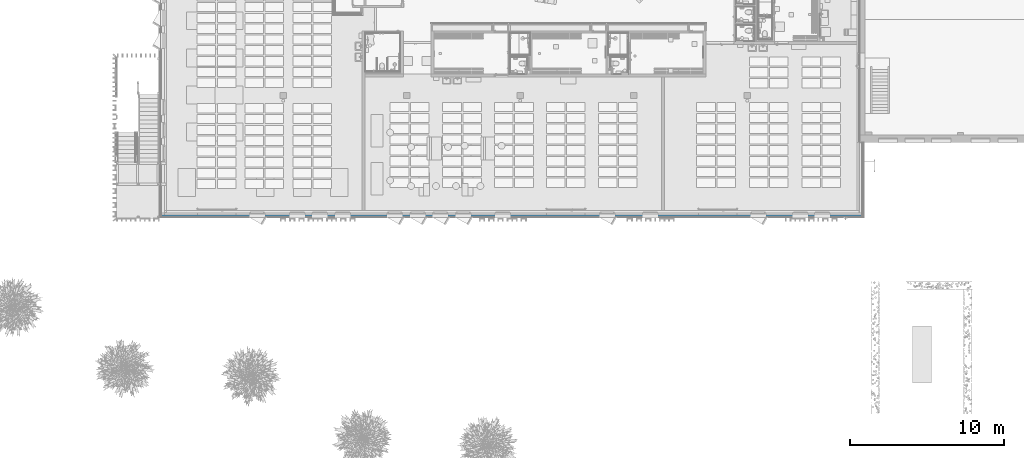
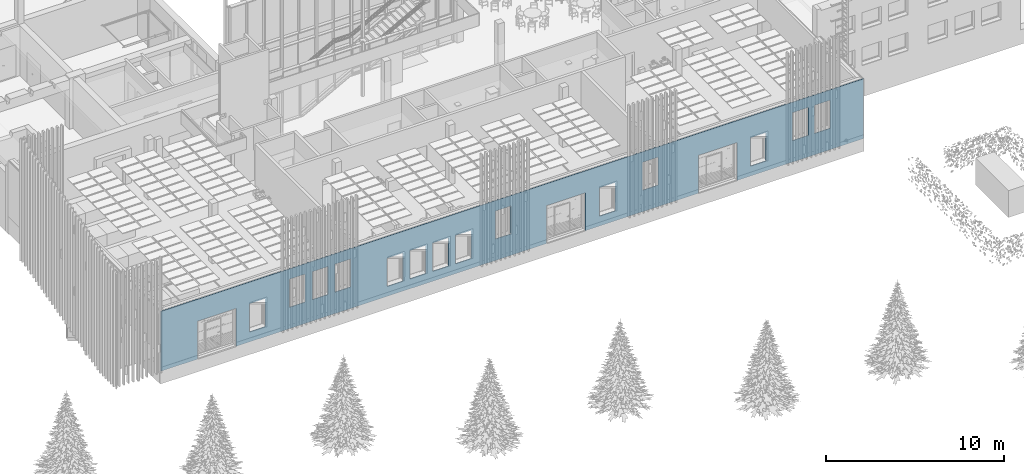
# One storey, part 176 of 301: 1 building element part, 20 openings, 1 element without a shape of its own.
"""IFC2X3 building model written with IfcOpenShell, lengths in millimetres."""

import ifcopenshell
import ifcopenshell.guid

model = None  # the IFC model being written
_history = None  # IfcOwnerHistory: only IFC2X3 demands one
_inside = {}  # id of a spatial element -> (the spatial element, [elements in it])
_under = {}  # id of a project, library or spatial element -> (it, [spatial elements below it])
_declared = {}  # id of a project -> (the project, [libraries it declares])
_typed = {}  # id of a type object -> (the type object, [elements of that type])
_made_of = {}  # id of a material, layer set ... -> (it, [elements and type objects made of it])


def new_model(schema):
    """Start an empty IFC model of exactly this schema.

    Asked for "IFC4X3", IfcOpenShell would pick the latest addendum, in which some entities
    have other attributes; the version numbers below select the first issue.
    IFC2X3 requires an IfcOwnerHistory on every rooted entity: one is made here for all.
    """
    global model, _history
    if schema == "IFC4X3":
        model = ifcopenshell.file(schema_version=(4, 3, 0, 0))
    else:
        model = ifcopenshell.file(schema=schema)
    _inside.clear()
    _under.clear()
    _declared.clear()
    _typed.clear()
    _made_of.clear()
    _history = None
    if model.schema == "IFC2X3":
        org = make("IfcOrganization", Name="unknown")
        user = make(
            "IfcPersonAndOrganization",
            ThePerson=make("IfcPerson", FamilyName="unknown"),
            TheOrganization=org,
        )
        app = make(
            "IfcApplication",
            ApplicationDeveloper=org,
            Version="unknown",
            ApplicationFullName="unknown",
            ApplicationIdentifier="unknown",
        )
        _history = make(
            "IfcOwnerHistory",
            OwningUser=user,
            OwningApplication=app,
            ChangeAction="ADDED",
            CreationDate=0,
        )
    return model


def make(cls, **values):
    """One entity of the class cls with the attributes given. An attribute that is None is left unset."""
    return model.create_entity(
        cls, **{name: value for name, value in values.items() if value is not None}
    )


def entity(cls, *values):
    """Any entity or typed value of the class cls, its attributes in the order of the schema. None: left unset."""
    e = model.create_entity(cls)
    for i, value in enumerate(values):
        if value is not None:
            e[i] = value
    return e


def rooted(cls, **values):
    """An entity with a GlobalId (a new one), such as an element, a storey or a relation."""
    return make(cls, GlobalId=ifcopenshell.guid.new(), OwnerHistory=_history, **values)


def si_unit(unit_type, name, prefix=None):
    """IfcSIUnit, for example si_unit("LENGTHUNIT", "METRE", prefix="MILLI")."""
    return make("IfcSIUnit", UnitType=unit_type, Prefix=prefix, Name=name)


def converted_unit(unit_type, name, factor, base, dimensions=None, offset=None):
    """IfcConversionBasedUnit, such as the inch: factor (a typed value) times the base unit."""
    return make(
        "IfcConversionBasedUnit"
        if offset is None
        else "IfcConversionBasedUnitWithOffset",
        ConversionOffset=offset,
        Dimensions=None
        if dimensions is None
        else entity("IfcDimensionalExponents", *dimensions),
        UnitType=unit_type,
        Name=name,
        ConversionFactor=make(
            "IfcMeasureWithUnit", ValueComponent=factor, UnitComponent=base
        ),
    )


def derived_unit(unit_type, elements):
    """IfcDerivedUnit: a product of units, each with its exponent."""
    return make(
        "IfcDerivedUnit",
        Elements=[
            make("IfcDerivedUnitElement", Unit=unit, Exponent=power)
            for unit, power in elements
        ],
        UnitType=unit_type,
    )


def money_unit(currency):
    """IfcMonetaryUnit."""
    return make("IfcMonetaryUnit", Currency=currency)


def assignment(units):
    """IfcUnitAssignment: the units of a project."""
    return None if units is None else make("IfcUnitAssignment", Units=units)


def point(xyz):
    """IfcCartesianPoint."""
    return None if xyz is None else make("IfcCartesianPoint", Coordinates=xyz)


def direction(xyz):
    """IfcDirection."""
    return None if xyz is None else make("IfcDirection", DirectionRatios=xyz)


def frame(location, z_axis=None, x_axis=None):
    """IfcAxis2Placement3D, a coordinate frame: its origin and axes. An axis left out is left unset."""
    return make(
        "IfcAxis2Placement3D",
        Location=point(location),
        Axis=direction(z_axis),
        RefDirection=direction(x_axis),
    )


def origin_with_axes():
    """The frame at (0, 0, 0) with the z axis (0, 0, 1) and the x axis (1, 0, 0) written out."""
    return frame((0.0, 0.0, 0.0), z_axis=(0.0, 0.0, 1.0), x_axis=(1.0, 0.0, 0.0))


def place(relative_to, where):
    """IfcLocalPlacement: puts the frame where relative to a parent placement (None: the world)."""
    return make(
        "IfcLocalPlacement", PlacementRelTo=relative_to, RelativePlacement=where
    )


def context(
    kind, dimensions, precision=None, world=None, true_north=None, identifier=None
):
    """IfcGeometricRepresentationContext, for example the 3D "Model" context."""
    return make(
        "IfcGeometricRepresentationContext",
        ContextIdentifier=identifier,
        ContextType=kind,
        CoordinateSpaceDimension=dimensions,
        Precision=precision,
        WorldCoordinateSystem=world,
        TrueNorth=true_north,
    )


def subcontext(parent, identifier, kind, view, scale=None):
    """IfcGeometricRepresentationSubContext, for example "Body" below "Model"."""
    return make(
        "IfcGeometricRepresentationSubContext",
        ContextIdentifier=identifier,
        ContextType=kind,
        ParentContext=parent,
        TargetScale=scale,
        TargetView=view,
    )


def project(units=None, contexts=None):
    """IfcProject with its units and contexts."""
    return rooted(
        "IfcProject",
        Name="project",
        RepresentationContexts=contexts,
        UnitsInContext=assignment(units),
    )


def spatial(cls, under=None, at=None, **own):
    """A site, building, storey or space (cls), placed at a placement, below another one or the project."""
    s = rooted(cls, ObjectPlacement=at, **own)
    if under is not None:
        _under.setdefault(under.id(), (under, []))[1].append(s)
    return s


def faces_of(points, faces, orient=None, outer=None):
    """IfcFace entities. A face is a list of loops; a loop is a list of indices into points, from 0.

    orient and outer hold one flag for each loop. By default every Orientation is true, the
    first loop of a face is its IfcFaceOuterBound and the others are IfcFaceBound.
    """
    made = []
    for i, loops in enumerate(faces):
        bounds = []
        for j, loop in enumerate(loops):
            is_outer = j == 0 if outer is None else outer[i][j]
            bounds.append(
                make(
                    "IfcFaceOuterBound" if is_outer else "IfcFaceBound",
                    Bound=make("IfcPolyLoop", Polygon=[points[k] for k in loop]),
                    Orientation=True if orient is None else orient[i][j],
                )
            )
        made.append(make("IfcFace", Bounds=bounds))
    return made


def faceted_brep(points, faces, orient=None, outer=None, voids=None):
    """IfcFacetedBrep: a solid bounded by flat faces; with voids (closed shells), ...WithVoids."""
    shared = [point(p) for p in points]
    hull = make("IfcClosedShell", CfsFaces=faces_of(shared, faces, orient, outer))
    if voids is None:
        return make("IfcFacetedBrep", Outer=hull)
    return make(
        "IfcFacetedBrepWithVoids",
        Outer=hull,
        Voids=[
            make(cls, CfsFaces=faces_of(shared, fs, o, b)) for cls, fs, o, b in voids
        ],
    )


def shape(context_of_items, identifier, shape_type, items):
    """IfcShapeRepresentation: the items that make up one representation, for example the "Body"."""
    return make(
        "IfcShapeRepresentation",
        ContextOfItems=context_of_items,
        RepresentationIdentifier=identifier,
        RepresentationType=shape_type,
        Items=items,
    )


def material(Name=None, Category=None):
    """IfcMaterial."""
    return make("IfcMaterial", Name=Name, Category=Category)


def made_of(thing, what):
    """Note that an element or type object is made of a material, layer set ...; save() writes the relation."""
    if what is not None:
        _made_of.setdefault(what.id(), (what, []))[1].append(thing)
    return thing


def type_object(cls, material=None, **own):
    """A type object (cls), such as IfcWallType, which elements share."""
    return made_of(rooted(cls, **own), material)


def element(
    cls,
    number,
    at=None,
    inside=None,
    cuts=None,
    type_object=None,
    material=None,
    context=None,
    identifier="Body",
    shape_type=None,
    held_by="IfcProductDefinitionShape",
    body=None,
    shapes=None,
    **own,
):
    """One element of the class cls, such as IfcWall. Its Tag is "e" and its number.

    at: its placement. inside: the storey or other place that contains it. cuts: it is an
    opening in that element (IfcRelVoidsElement). A single representation is given by context,
    identifier, shape_type and body (its items); several are given by shapes. held_by: the class
    of the entity that holds the representations. save() writes the other relations.
    """
    e = rooted(cls, Tag="e%d" % number, ObjectPlacement=at, **own)
    if body is not None:
        shapes = [shape(context, identifier, shape_type, body)]
    if shapes is not None:
        e.Representation = make(held_by, Representations=shapes)
    if inside is not None:
        _inside.setdefault(inside.id(), (inside, []))[1].append(e)
    if cuts is not None:
        rooted(
            "IfcRelVoidsElement", RelatingBuildingElement=cuts, RelatedOpeningElement=e
        )
    if type_object is not None:
        _typed.setdefault(type_object.id(), (type_object, []))[1].append(e)
    return made_of(e, material)


def aggregate(whole, parts):
    """IfcRelAggregates: a whole, such as a stair, and the parts it consists of."""
    return rooted("IfcRelAggregates", RelatingObject=whole, RelatedObjects=parts)


def save(model, path):
    """Write the relations noted so far, then the file.

    IfcRelAggregates (storeys below a building ...), IfcRelContainedInSpatialStructure (elements
    in a storey), IfcRelDefinesByType, IfcRelAssociatesMaterial and IfcRelDeclares: one each for
    every whole, place, type object, material and project.
    """
    for whole, parts in _under.values():
        aggregate(whole, parts)
    for where, things in _inside.values():
        rooted(
            "IfcRelContainedInSpatialStructure",
            RelatedElements=things,
            RelatingStructure=where,
        )
    for kind, things in _typed.values():
        rooted("IfcRelDefinesByType", RelatedObjects=things, RelatingType=kind)
    for what, things in _made_of.values():
        rooted("IfcRelAssociatesMaterial", RelatedObjects=things, RelatingMaterial=what)
    for by, libraries in _declared.values():
        rooted("IfcRelDeclares", RelatingContext=by, RelatedDefinitions=libraries)
    model.write(path)


model = new_model("IFC2X3")

# Units and contexts
model_context = context("Model", 3, precision=0.01, world=origin_with_axes(), true_north=direction((0.0, 1.0)))
body_context = subcontext(model_context, "Body", "Model", "MODEL_VIEW")
ifc_project = project(units=[si_unit("LENGTHUNIT", "METRE", prefix="MILLI"), si_unit("AREAUNIT", "SQUARE_METRE"), si_unit("VOLUMEUNIT", "CUBIC_METRE"), converted_unit("PLANEANGLEUNIT", "DEGREE", entity("IfcPlaneAngleMeasure", 0.0174532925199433), si_unit("PLANEANGLEUNIT", "RADIAN"), dimensions=[0, 0, 0, 0, 0, 0, 0]), money_unit("EUR"), converted_unit("TIMEUNIT", "Year", entity("IfcTimeMeasure", 31557600.0), si_unit("TIMEUNIT", "SECOND"), dimensions=[0, 0, 1, 0, 0, 0, 0]), si_unit("MASSUNIT", "GRAM", prefix="KILO"), si_unit("THERMODYNAMICTEMPERATUREUNIT", "DEGREE_CELSIUS"), si_unit("LUMINOUSINTENSITYUNIT", "LUMEN"), si_unit("ENERGYUNIT", "JOULE", prefix="MEGA"), derived_unit("THERMALCONDUCTANCEUNIT", [(si_unit("POWERUNIT", "WATT"), 1), (si_unit("LENGTHUNIT", "METRE"), -1), (si_unit("THERMODYNAMICTEMPERATUREUNIT", "KELVIN"), -1)]), derived_unit("SPECIFICHEATCAPACITYUNIT", [(si_unit("ENERGYUNIT", "JOULE"), 1), (si_unit("MASSUNIT", "GRAM", prefix="KILO"), -1), (si_unit("THERMODYNAMICTEMPERATUREUNIT", "KELVIN"), -1)]), derived_unit("MASSDENSITYUNIT", [(si_unit("MASSUNIT", "GRAM", prefix="KILO"), 1), (si_unit("VOLUMEUNIT", "CUBIC_METRE"), -1)])], contexts=[model_context])

# Site, building, storey
site_placement = place(None, frame((0.0, 0.0, 8650.0), z_axis=(0.0, 0.0, 1.0), x_axis=(1.0, 0.0, 0.0)))
site = spatial("IfcSite", under=ifc_project, at=site_placement, Name="43301:001:0844", CompositionType="ELEMENT")
building_placement = place(site_placement, origin_with_axes())
building = spatial("IfcBuilding", under=site, at=building_placement, Name="Kuressaare Ametikooli tuulikute mehaanikute õppekorpus", CompositionType="ELEMENT")
storey_placement = place(building_placement, origin_with_axes())
storey = spatial("IfcBuildingStorey", under=building, at=storey_placement, Name="1.korrus", CompositionType="ELEMENT", Elevation=0.0)

# Wall, openings, building element part
wall_type = type_object("IfcWallType", Name="VS1 437", PredefinedType="NOTDEFINED")
wall_placement = place(storey_placement, frame((133024.9464416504, 9123.838490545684, 0.0), z_axis=(0.0, 0.0, 1.0), x_axis=(-1.0, 0.0, 0.0)))
wall = element("IfcWall", 1, at=wall_placement, inside=storey, type_object=wall_type, Name="Sisesein")
opening_1_placement = place(wall_placement, frame((26976.99415685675, 0.0, 700.0), z_axis=(0.0, 0.0, 1.0), x_axis=(1.0, 0.0, 0.0)))
element("IfcOpeningElement", 2, at=opening_1_placement, cuts=wall, Name="A-1g", context=body_context, shape_type="Brep", body=[
    faceted_brep([(-504.9999999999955, 219.9999999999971, 0.0), (-504.9999999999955, 219.9999999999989, 1910.0), (-504.9999999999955, 437.9999999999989, 1910.0), (-504.9999999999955, 437.9999999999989, 0.0), (-504.9999999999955, -1.000000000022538, 0.0), (-504.9999999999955, -1.000000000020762, 1910.0), (504.9999999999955, 219.9999999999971, 1910.0), (504.9999999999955, 437.9999999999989, 1910.0), (504.9999999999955, -1.000000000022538, 1910.0), (504.9999999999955, 437.9999999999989, 0.0), (504.9999999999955, 219.9999999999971, 0.0), (504.9999999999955, -1.000000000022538, 0.0)], [[[0, 1, 2, 3]], [[1, 0, 4, 5]], [[6, 7, 2, 1, 5, 8]], [[7, 9, 3, 2]], [[0, 3, 9, 10, 11, 4]], [[5, 4, 11, 8]], [[6, 10, 9, 7]], [[10, 6, 8, 11]]]),
])
opening_2_placement = place(wall_placement, frame((29926.99415685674, 0.0, 700.0000000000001), z_axis=(0.0, 0.0, 1.0), x_axis=(1.0, 0.0, 0.0)))
element("IfcOpeningElement", 3, at=opening_2_placement, cuts=wall, Name="A-1g", context=body_context, shape_type="Brep", body=[
    faceted_brep([(-504.9999999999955, 219.9999999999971, 0.0), (-504.9999999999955, 219.9999999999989, 1910.0), (-504.9999999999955, 437.9999999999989, 1910.0), (-504.9999999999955, 437.9999999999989, 0.0), (-504.9999999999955, -1.000000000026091, 0.0), (-504.9999999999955, -1.000000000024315, 1910.0), (504.9999999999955, 219.9999999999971, 1910.0), (504.9999999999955, 437.9999999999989, 1910.0), (504.9999999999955, -1.000000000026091, 1910.0), (504.9999999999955, 437.9999999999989, 0.0), (504.9999999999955, 219.9999999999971, 0.0), (504.9999999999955, -1.000000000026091, 0.0)], [[[0, 1, 2, 3]], [[1, 0, 4, 5]], [[6, 7, 2, 1, 5, 8]], [[7, 9, 3, 2]], [[0, 3, 9, 10, 11, 4]], [[5, 4, 11, 8]], [[6, 10, 9, 7]], [[10, 6, 8, 11]]]),
])
opening_3_placement = place(wall_placement, frame((2241.190539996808, 0.0, 1475.000000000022), z_axis=(0.0, 0.0, 1.0), x_axis=(1.0, 0.0, 0.0)))
element("IfcOpeningElement", 4, at=opening_3_placement, cuts=wall, Name="A-1g,SE", context=body_context, shape_type="Brep", body=[
    faceted_brep([(-504.9999999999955, 220.0000000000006, 0.0), (-504.9999999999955, 220.0000000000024, 1910.0), (-504.9999999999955, 437.9999999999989, 1910.0), (-504.9999999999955, 437.9999999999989, 0.0), (-504.9999999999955, -1.000000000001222, 0.0), (-504.9999999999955, -0.9999999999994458, 1910.0), (504.9999999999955, 220.0000000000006, 1910.0), (504.9999999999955, 437.9999999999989, 1910.0), (504.9999999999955, -1.000000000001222, 1910.0), (504.9999999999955, 437.9999999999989, 0.0), (504.9999999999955, 220.0000000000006, 0.0), (504.9999999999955, -1.000000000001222, 0.0)], [[[0, 1, 2, 3]], [[1, 0, 4, 5]], [[6, 7, 2, 1, 5, 8]], [[7, 9, 3, 2]], [[0, 3, 9, 10, 11, 4]], [[5, 4, 11, 8]], [[6, 10, 9, 7]], [[10, 6, 8, 11]]]),
])
opening_4_placement = place(wall_placement, frame((13381.72835363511, 0.0, 1475.000000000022), z_axis=(0.0, 0.0, 1.0), x_axis=(1.0, 0.0, 0.0)))
element("IfcOpeningElement", 5, at=opening_4_placement, cuts=wall, Name="A-1g,SE", context=body_context, shape_type="Brep", body=[
    faceted_brep([(-504.9999999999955, 219.9999999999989, 0.0), (-504.9999999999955, 220.0000000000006, 1910.0), (-504.9999999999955, 437.9999999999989, 1910.0), (-504.9999999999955, 437.9999999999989, 0.0), (-504.9999999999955, -1.000000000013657, 0.0), (-504.9999999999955, -1.00000000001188, 1910.0), (504.9999999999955, 219.9999999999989, 1910.0), (504.9999999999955, 437.9999999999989, 1910.0), (504.9999999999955, -1.000000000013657, 1910.0), (504.9999999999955, 437.9999999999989, 0.0), (504.9999999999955, 219.9999999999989, 0.0), (504.9999999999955, -1.000000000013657, 0.0)], [[[0, 1, 2, 3]], [[1, 0, 4, 5]], [[6, 7, 2, 1, 5, 8]], [[7, 9, 3, 2]], [[0, 3, 9, 10, 11, 4]], [[5, 4, 11, 8]], [[6, 10, 9, 7]], [[10, 6, 8, 11]]]),
])
opening_5_placement = place(wall_placement, frame((25501.99415685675, 0.0, 700.0), z_axis=(0.0, 0.0, 1.0), x_axis=(1.0, 0.0, 0.0)))
element("IfcOpeningElement", 6, at=opening_5_placement, cuts=wall, Name="A-1g", context=body_context, shape_type="Brep", body=[
    faceted_brep([(-504.9999999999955, 219.9999999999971, 0.0), (-504.9999999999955, 219.9999999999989, 1910.0), (-504.9999999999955, 437.9999999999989, 1910.0), (-504.9999999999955, 437.9999999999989, 0.0), (-504.9999999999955, -1.000000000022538, 0.0), (-504.9999999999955, -1.000000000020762, 1910.0), (504.9999999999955, 219.9999999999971, 1910.0), (504.9999999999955, 437.9999999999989, 1910.0), (504.9999999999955, -1.000000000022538, 1910.0), (504.9999999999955, 437.9999999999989, 0.0), (504.9999999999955, 219.9999999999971, 0.0), (504.9999999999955, -1.000000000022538, 0.0)], [[[0, 1, 2, 3]], [[1, 0, 4, 5]], [[6, 7, 2, 1, 5, 8]], [[7, 9, 3, 2]], [[0, 3, 9, 10, 11, 4]], [[5, 4, 11, 8]], [[6, 10, 9, 7]], [[10, 6, 8, 11]]]),
])
opening_6_placement = place(wall_placement, frame((6401.877929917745, 0.0, 700.0), z_axis=(0.0, 0.0, 1.0), x_axis=(1.0, 0.0, 0.0)))
element("IfcOpeningElement", 7, at=opening_6_placement, cuts=wall, Name="A-1g", context=body_context, shape_type="Brep", body=[
    faceted_brep([(-504.9999999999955, 220.0000000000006, 0.0), (-504.9999999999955, 220.0000000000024, 1910.0), (-504.9999999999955, 437.9999999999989, 1910.0), (-504.9999999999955, 437.9999999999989, 0.0), (-504.9999999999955, -1.000000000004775, 0.0), (-504.9999999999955, -1.000000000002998, 1910.0), (504.9999999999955, 220.0000000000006, 1910.0), (504.9999999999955, 437.9999999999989, 1910.0), (504.9999999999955, -1.000000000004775, 1910.0), (504.9999999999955, 437.9999999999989, 0.0), (504.9999999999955, 220.0000000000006, 0.0), (504.9999999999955, -1.000000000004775, 0.0)], [[[0, 1, 2, 3]], [[1, 0, 4, 5]], [[6, 7, 2, 1, 5, 8]], [[7, 9, 3, 2]], [[0, 3, 9, 10, 11, 4]], [[5, 4, 11, 8]], [[6, 10, 9, 7]], [[10, 6, 8, 11]]]),
])
opening_7_placement = place(wall_placement, frame((22926.99691245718, 0.0, 1475.000000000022), z_axis=(0.0, 0.0, 1.0), x_axis=(1.0, 0.0, 0.0)))
element("IfcOpeningElement", 8, at=opening_7_placement, cuts=wall, Name="A-1g,SE", context=body_context, shape_type="Brep", body=[
    faceted_brep([(-504.9999999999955, 219.9999999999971, 0.0), (-504.9999999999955, 219.9999999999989, 1910.0), (-504.9999999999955, 437.9999999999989, 1910.0), (-504.9999999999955, 437.9999999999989, 0.0), (-504.9999999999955, -1.000000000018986, 0.0), (-504.9999999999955, -1.000000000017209, 1910.0), (504.9999999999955, 219.9999999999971, 1910.0), (504.9999999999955, 437.9999999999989, 1910.0), (504.9999999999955, -1.000000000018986, 1910.0), (504.9999999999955, 437.9999999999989, 0.0), (504.9999999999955, 219.9999999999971, 0.0), (504.9999999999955, -1.000000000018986, 0.0)], [[[0, 1, 2, 3]], [[1, 0, 4, 5]], [[6, 7, 2, 1, 5, 8]], [[7, 9, 3, 2]], [[0, 3, 9, 10, 11, 4]], [[5, 4, 11, 8]], [[6, 10, 9, 7]], [[10, 6, 8, 11]]]),
])
opening_8_placement = place(wall_placement, frame((38843.87792991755, 0.0, 700.0), z_axis=(0.0, 0.0, 1.0), x_axis=(1.0, 0.0, 0.0)))
element("IfcOpeningElement", 9, at=opening_8_placement, cuts=wall, Name="A-1g", context=body_context, shape_type="Brep", body=[
    faceted_brep([(-504.9999999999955, 219.9999999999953, 0.0), (-504.9999999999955, 219.9999999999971, 1910.0), (-504.9999999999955, 437.9999999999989, 1910.0), (-504.9999999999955, 437.9999999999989, 0.0), (-504.9999999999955, -1.000000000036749, 0.0), (-504.9999999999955, -1.000000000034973, 1910.0), (504.9999999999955, 219.9999999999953, 1910.0), (504.9999999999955, 437.9999999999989, 1910.0), (504.9999999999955, -1.000000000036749, 1910.0), (504.9999999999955, 437.9999999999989, 0.0), (504.9999999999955, 219.9999999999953, 0.0), (504.9999999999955, -1.000000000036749, 0.0)], [[[0, 1, 2, 3]], [[1, 0, 4, 5]], [[6, 7, 2, 1, 5, 8]], [[7, 9, 3, 2]], [[0, 3, 9, 10, 11, 4]], [[5, 4, 11, 8]], [[6, 10, 9, 7]], [[10, 6, 8, 11]]]),
])
opening_9_placement = place(wall_placement, frame((16176.99691245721, 0.0, 700.0), z_axis=(0.0, 0.0, 1.0), x_axis=(1.0, 0.0, 0.0)))
element("IfcOpeningElement", 10, at=opening_9_placement, cuts=wall, Name="A-1g", context=body_context, shape_type="Brep", body=[
    faceted_brep([(-504.9999999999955, 219.9999999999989, 0.0), (-504.9999999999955, 220.0000000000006, 1910.0), (-504.9999999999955, 437.9999999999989, 1910.0), (-504.9999999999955, 437.9999999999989, 0.0), (-504.9999999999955, -1.000000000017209, 0.0), (-504.9999999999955, -1.000000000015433, 1910.0), (504.9999999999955, 219.9999999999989, 1910.0), (504.9999999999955, 437.9999999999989, 1910.0), (504.9999999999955, -1.000000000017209, 1910.0), (504.9999999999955, 437.9999999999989, 0.0), (504.9999999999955, 219.9999999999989, 0.0), (504.9999999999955, -1.000000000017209, 0.0)], [[[0, 1, 2, 3]], [[1, 0, 4, 5]], [[6, 7, 2, 1, 5, 8]], [[7, 9, 3, 2]], [[0, 3, 9, 10, 11, 4]], [[5, 4, 11, 8]], [[6, 10, 9, 7]], [[10, 6, 8, 11]]]),
])
opening_10_placement = place(wall_placement, frame((3661.862783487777, 0.0, 1475.000000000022), z_axis=(0.0, 0.0, 1.0), x_axis=(1.0, 0.0, 0.0)))
element("IfcOpeningElement", 11, at=opening_10_placement, cuts=wall, Name="A-1g,SE", context=body_context, shape_type="Brep", body=[
    faceted_brep([(-504.9999999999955, 220.0000000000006, 0.0), (-504.9999999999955, 220.0000000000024, 1910.0), (-504.9999999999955, 437.9999999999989, 1910.0), (-504.9999999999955, 437.9999999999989, 0.0), (-504.9999999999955, -1.000000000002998, 0.0), (-504.9999999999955, -1.000000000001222, 1910.0), (504.9999999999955, 220.0000000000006, 1910.0), (504.9999999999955, 437.9999999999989, 1910.0), (504.9999999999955, -1.000000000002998, 1910.0), (504.9999999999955, 437.9999999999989, 0.0), (504.9999999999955, 220.0000000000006, 0.0), (504.9999999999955, -1.000000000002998, 0.0)], [[[0, 1, 2, 3]], [[1, 0, 4, 5]], [[6, 7, 2, 1, 5, 8]], [[7, 9, 3, 2]], [[0, 3, 9, 10, 11, 4]], [[5, 4, 11, 8]], [[6, 10, 9, 7]], [[10, 6, 8, 11]]]),
])
opening_11_placement = place(wall_placement, frame((36251.877858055, 0.0, 1475.000000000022), z_axis=(0.0, 0.0, 1.0), x_axis=(1.0, 0.0, 0.0)))
element("IfcOpeningElement", 12, at=opening_11_placement, cuts=wall, Name="A-1g,SE", context=body_context, shape_type="Brep", body=[
    faceted_brep([(-504.9999999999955, 219.9999999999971, 0.0), (-504.9999999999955, 219.9999999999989, 1910.0), (-504.9999999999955, 437.9999999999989, 1910.0), (-504.9999999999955, 437.9999999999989, 0.0), (-504.9999999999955, -1.00000000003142, 0.0), (-504.9999999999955, -1.000000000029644, 1910.0), (504.9999999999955, 219.9999999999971, 1910.0), (504.9999999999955, 437.9999999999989, 1910.0), (504.9999999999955, -1.00000000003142, 1910.0), (504.9999999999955, 437.9999999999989, 0.0), (504.9999999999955, 219.9999999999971, 0.0), (504.9999999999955, -1.00000000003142, 0.0)], [[[0, 1, 2, 3]], [[1, 0, 4, 5]], [[6, 7, 2, 1, 5, 8]], [[7, 9, 3, 2]], [[0, 3, 9, 10, 11, 4]], [[5, 4, 11, 8]], [[6, 10, 9, 7]], [[10, 6, 8, 11]]]),
])
opening_12_placement = place(wall_placement, frame((33301.87785805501, 0.0, 1475.000000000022), z_axis=(0.0, 0.0, 1.0), x_axis=(1.0, 0.0, 0.0)))
element("IfcOpeningElement", 13, at=opening_12_placement, cuts=wall, Name="A-1g,SE", context=body_context, shape_type="Brep", body=[
    faceted_brep([(-504.9999999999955, 219.9999999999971, 0.0), (-504.9999999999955, 219.9999999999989, 1910.0), (-504.9999999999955, 437.9999999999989, 1910.0), (-504.9999999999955, 437.9999999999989, 0.0), (-504.9999999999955, -1.000000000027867, 0.0), (-504.9999999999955, -1.000000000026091, 1910.0), (504.9999999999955, 219.9999999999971, 1910.0), (504.9999999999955, 437.9999999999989, 1910.0), (504.9999999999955, -1.000000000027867, 1910.0), (504.9999999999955, 437.9999999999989, 0.0), (504.9999999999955, 219.9999999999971, 0.0), (504.9999999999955, -1.000000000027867, 0.0)], [[[0, 1, 2, 3]], [[1, 0, 4, 5]], [[6, 7, 2, 1, 5, 8]], [[7, 9, 3, 2]], [[0, 3, 9, 10, 11, 4]], [[5, 4, 11, 8]], [[6, 10, 9, 7]], [[10, 6, 8, 11]]]),
])
opening_13_placement = place(wall_placement, frame((34776.877858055, 0.0, 1475.000000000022), z_axis=(0.0, 0.0, 1.0), x_axis=(1.0, 0.0, 0.0)))
element("IfcOpeningElement", 14, at=opening_13_placement, cuts=wall, Name="A-1g,SE", context=body_context, shape_type="Brep", body=[
    faceted_brep([(-504.9999999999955, 219.9999999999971, 0.0), (-504.9999999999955, 219.9999999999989, 1910.0), (-504.9999999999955, 437.9999999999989, 1910.0), (-504.9999999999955, 437.9999999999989, 0.0), (-504.9999999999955, -1.000000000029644, 0.0), (-504.9999999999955, -1.000000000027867, 1910.0), (504.9999999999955, 219.9999999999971, 1910.0), (504.9999999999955, 437.9999999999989, 1910.0), (504.9999999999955, -1.000000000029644, 1910.0), (504.9999999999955, 437.9999999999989, 0.0), (504.9999999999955, 219.9999999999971, 0.0), (504.9999999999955, -1.000000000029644, 0.0)], [[[0, 1, 2, 3]], [[1, 0, 4, 5]], [[6, 7, 2, 1, 5, 8]], [[7, 9, 3, 2]], [[0, 3, 9, 10, 11, 4]], [[5, 4, 11, 8]], [[6, 10, 9, 7]], [[10, 6, 8, 11]]]),
])
opening_14_placement = place(wall_placement, frame((18848.67342500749, 0.0, 0.0), z_axis=(0.0, 0.0, 1.0), x_axis=(1.0, 0.0, 0.0)))
element("IfcOpeningElement", 15, at=opening_14_placement, cuts=wall, Name="Ava seinas", context=body_context, shape_type="Brep", body=[
    faceted_brep([(-1219.999999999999, 139.9999999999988, 0.0), (-1219.999999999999, 140.0000000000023, 2570.0), (-1219.999999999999, 438.0000000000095, 2570.0), (-1219.999999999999, 438.0000000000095, 0.0), (1219.999999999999, 140.0000000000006, 2570.0), (-1250.0, 139.9999999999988, 0.0), (-1250.0, 140.0000000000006, 2600.0), (1250.0, 139.9999999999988, 2600.0), (1250.0, 139.9999999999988, 0.0), (1219.999999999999, 139.9999999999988, 0.0), (1219.999999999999, 438.0000000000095, 2570.0), (1219.999999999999, 438.0000000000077, 0.0), (1250.0, -1.00000000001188, 0.0), (-1250.0, -1.00000000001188, 0.0), (-1250.0, -1.000000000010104, 2600.0), (1250.0, -1.00000000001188, 2600.0)], [[[0, 1, 2, 3]], [[4, 1, 0, 5, 6, 7, 8, 9]], [[1, 4, 10, 2]], [[10, 11, 3, 2]], [[9, 0, 3, 11]], [[0, 9, 8, 12, 13, 5]], [[6, 5, 13, 14]], [[7, 6, 14, 15]], [[8, 7, 15, 12]], [[4, 9, 11, 10]], [[14, 13, 12, 15]]]),
])
opening_15_placement = place(wall_placement, frame((41461.22668595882, 0.0, 0.0), z_axis=(0.0, 0.0, 1.0), x_axis=(1.0, 0.0, 0.0)))
element("IfcOpeningElement", 16, at=opening_15_placement, cuts=wall, Name="Ava seinas", context=body_context, shape_type="Brep", body=[
    faceted_brep([(-1219.999999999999, 139.9999999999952, 0.0), (-1219.999999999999, 139.999999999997, 2570.0), (-1219.999999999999, 438.0000000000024, 2570.0), (-1219.999999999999, 438.0000000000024, 0.0), (1219.999999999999, 139.9999999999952, 2570.0), (-1250.0, 139.9999999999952, 0.0), (-1250.0, 139.999999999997, 2600.0), (1250.0, 139.9999999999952, 2600.0), (1250.0, 139.9999999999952, 0.0), (1219.999999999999, 139.9999999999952, 0.0), (1219.999999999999, 438.0000000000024, 2570.0), (1219.999999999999, 438.0000000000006, 0.0), (1250.0, -1.000000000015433, 0.0), (-1250.0, -1.000000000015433, 0.0), (-1250.0, -1.000000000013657, 2600.0), (1250.0, -1.000000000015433, 2600.0)], [[[0, 1, 2, 3]], [[4, 1, 0, 5, 6, 7, 8, 9]], [[1, 4, 10, 2]], [[10, 11, 3, 2]], [[9, 0, 3, 11]], [[0, 9, 8, 12, 13, 5]], [[6, 5, 13, 14]], [[7, 6, 14, 15]], [[8, 7, 15, 12]], [[4, 9, 11, 10]], [[14, 13, 12, 15]]]),
])
opening_16_placement = place(wall_placement, frame((18848.67342500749, 0.0, 0.0), z_axis=(0.0, 0.0, 1.0), x_axis=(1.0, 0.0, 0.0)))
element("IfcOpeningElement", 17, at=opening_16_placement, cuts=wall, Name="TÕU25x26", context=body_context, shape_type="Brep", body=[
    faceted_brep([(-1250.0, 436.9999999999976, 0.0), (-1250.0, 436.9999999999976, 2600.0), (-1250.0, 437.9999999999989, 2600.0), (-1250.0, 437.9999999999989, 0.0), (-1250.0, -0.9999999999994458, 0.0), (-1250.0, -0.9999999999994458, 2600.0), (1250.0, 436.9999999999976, 2600.0), (1250.0, 437.9999999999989, 2600.0), (1250.0, 437.9999999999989, 0.0), (1250.0, 436.9999999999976, 0.0), (1250.0, -0.9999999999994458, 0.0), (1250.0, -0.9999999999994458, 2600.0)], [[[0, 1, 2, 3]], [[1, 0, 4, 5]], [[1, 6, 7, 2]], [[8, 3, 2, 7]], [[9, 0, 3, 8]], [[0, 9, 10, 4]], [[5, 4, 10, 11]], [[6, 1, 5, 11]], [[6, 9, 8, 7]], [[9, 6, 11, 10]]]),
])
opening_17_placement = place(wall_placement, frame((9019.226685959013, 0.0, 0.0), z_axis=(0.0, 0.0, 1.0), x_axis=(1.0, 0.0, 0.0)))
element("IfcOpeningElement", 18, at=opening_17_placement, cuts=wall, Name="Ava seinas", context=body_context, shape_type="Brep", body=[
    faceted_brep([(-1219.999999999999, 139.9999999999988, 0.0), (-1219.999999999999, 140.0000000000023, 2570.0), (-1219.999999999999, 438.0000000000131, 2570.0), (-1219.999999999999, 438.0000000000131, 0.0), (1219.999999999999, 140.0000000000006, 2570.0), (-1250.0, 139.9999999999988, 0.0), (-1250.0, 140.0000000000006, 2600.0), (1250.0, 139.9999999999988, 2600.0), (1250.0, 139.9999999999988, 0.0), (1219.999999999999, 139.9999999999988, 0.0), (1219.999999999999, 438.0000000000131, 2570.0), (1219.999999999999, 438.0000000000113, 0.0), (1250.0, -1.000000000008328, 0.0), (-1250.0, -1.000000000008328, 0.0), (-1250.0, -1.000000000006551, 2600.0), (1250.0, -1.000000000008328, 2600.0)], [[[0, 1, 2, 3]], [[4, 1, 0, 5, 6, 7, 8, 9]], [[1, 4, 10, 2]], [[10, 11, 3, 2]], [[9, 0, 3, 11]], [[0, 9, 8, 12, 13, 5]], [[6, 5, 13, 14]], [[7, 6, 14, 15]], [[8, 7, 15, 12]], [[4, 9, 11, 10]], [[14, 13, 12, 15]]]),
])
opening_18_placement = place(wall_placement, frame((28451.99415685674, 0.0, 700.0), z_axis=(0.0, 0.0, 1.0), x_axis=(1.0, 0.0, 0.0)))
element("IfcOpeningElement", 19, at=opening_18_placement, cuts=wall, Name="A-1g", context=body_context, shape_type="Brep", body=[
    faceted_brep([(-504.9999999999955, 219.9999999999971, 0.0), (-504.9999999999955, 219.9999999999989, 1910.0), (-504.9999999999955, 437.9999999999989, 1910.0), (-504.9999999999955, 437.9999999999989, 0.0), (-504.9999999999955, -1.000000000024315, 0.0), (-504.9999999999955, -1.000000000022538, 1910.0), (504.9999999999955, 219.9999999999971, 1910.0), (504.9999999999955, 437.9999999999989, 1910.0), (504.9999999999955, -1.000000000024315, 1910.0), (504.9999999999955, 437.9999999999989, 0.0), (504.9999999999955, 219.9999999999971, 0.0), (504.9999999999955, -1.000000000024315, 0.0)], [[[0, 1, 2, 3]], [[1, 0, 4, 5]], [[6, 7, 2, 1, 5, 8]], [[7, 9, 3, 2]], [[0, 3, 9, 10, 11, 4]], [[5, 4, 11, 8]], [[6, 10, 9, 7]], [[10, 6, 8, 11]]]),
])
opening_19_placement = place(wall_placement, frame((9019.226685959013, 0.0, 0.0), z_axis=(0.0, 0.0, 1.0), x_axis=(1.0, 0.0, 0.0)))
element("IfcOpeningElement", 20, at=opening_19_placement, cuts=wall, Name="TÕU25x26", context=body_context, shape_type="Brep", body=[
    faceted_brep([(-1250.0, 436.9999999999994, 0.0), (-1250.0, 436.9999999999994, 2600.0), (-1250.0, 438.0000000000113, 2600.0), (-1250.0, 438.0000000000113, 0.0), (-1250.0, -1.000000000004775, 0.0), (-1250.0, -1.000000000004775, 2600.0), (1250.0, 436.9999999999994, 2600.0), (1250.0, 438.0000000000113, 2600.0), (1250.0, 438.0000000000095, 0.0), (1250.0, 436.9999999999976, 0.0), (1250.0, -1.000000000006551, 0.0), (1250.0, -1.000000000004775, 2600.0)], [[[0, 1, 2, 3]], [[1, 0, 4, 5]], [[1, 6, 7, 2]], [[8, 3, 2, 7]], [[9, 0, 3, 8]], [[0, 9, 10, 4]], [[5, 4, 10, 11]], [[6, 1, 5, 11]], [[6, 9, 8, 7]], [[9, 6, 11, 10]]]),
])
opening_20_placement = place(wall_placement, frame((41461.22668595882, 0.0, 0.0), z_axis=(0.0, 0.0, 1.0), x_axis=(1.0, 0.0, 0.0)))
element("IfcOpeningElement", 21, at=opening_20_placement, cuts=wall, Name="TÕU25x26", context=body_context, shape_type="Brep", body=[
    faceted_brep([(-1250.0, 436.9999999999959, 0.0), (-1250.0, 436.9999999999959, 2600.0), (-1250.0, 438.0000000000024, 2600.0), (-1250.0, 438.0000000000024, 0.0), (-1250.0, -1.000000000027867, 0.0), (-1250.0, -1.000000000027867, 2600.0), (1250.0, 436.9999999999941, 2600.0), (1250.0, 438.0000000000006, 2600.0), (1250.0, 438.0000000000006, 0.0), (1250.0, 436.9999999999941, 0.0), (1250.0, -1.000000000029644, 0.0), (1250.0, -1.000000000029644, 2600.0)], [[[0, 1, 2, 3]], [[1, 0, 4, 5]], [[1, 6, 7, 2]], [[8, 3, 2, 7]], [[9, 0, 3, 8]], [[0, 9, 10, 4]], [[5, 4, 10, 11]], [[6, 1, 5, 11]], [[6, 9, 8, 7]], [[9, 6, 11, 10]]]),
])
ifc_material = material(Name="Air Space - Frame")
building_element_part_placement = place(wall_placement, origin_with_axes())
building_element_part = element("IfcBuildingElementPart", 22, at=building_element_part_placement, material=ifc_material, Name="Air Space - Frame", context=body_context, shape_type="Brep", body=[
    faceted_brep([(42711.22668595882, 388.9999999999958, 2600.000000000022), (42711.22668595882, 388.9999999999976, 0.0), (45095.71979646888, 388.9999999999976, 0.0), (45095.71979646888, 388.9999999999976, 4100.0), (-417.0000000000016, 388.9999999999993, 4100.0), (-417.0000000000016, 388.9999999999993, 0.0), (7769.226685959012, 388.9999999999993, 0.0), (7769.226685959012, 388.9999999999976, 2600.000000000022), (10269.22668595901, 388.9999999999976, 2600.000000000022), (10269.22668595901, 388.9999999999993, 0.0), (17598.67342500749, 388.9999999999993, 0.0), (17598.67342500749, 388.9999999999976, 2600.000000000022), (20098.67342500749, 388.9999999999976, 2600.000000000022), (20098.67342500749, 388.9999999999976, 0.0), (40211.22668595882, 388.9999999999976, 0.0), (40211.22668595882, 388.9999999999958, 2600.000000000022), (27481.99415685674, 388.9999999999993, 2610.0), (27481.99415685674, 388.9999999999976, 700.0), (26471.99415685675, 388.9999999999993, 700.0), (26471.99415685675, 388.9999999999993, 2610.0), (29421.99415685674, 388.9999999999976, 2610.0), (30431.99415685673, 388.9999999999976, 2610.0), (30431.99415685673, 388.9999999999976, 700.0000000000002), (29421.99415685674, 388.9999999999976, 700.0000000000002), (24996.99415685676, 388.9999999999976, 700.0), (24996.99415685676, 388.9999999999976, 2610.0), (26006.99415685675, 388.9999999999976, 2610.0), (26006.99415685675, 388.9999999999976, 700.0), (2746.190539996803, 389.0000000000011, 1475.000000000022), (1736.190539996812, 389.0000000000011, 1475.000000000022), (1736.190539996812, 389.0000000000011, 3385.000000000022), (2746.190539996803, 389.0000000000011, 3385.000000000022), (13886.72835363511, 388.9999999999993, 3385.000000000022), (13886.72835363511, 388.9999999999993, 1475.000000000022), (12876.72835363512, 388.9999999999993, 1475.000000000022), (12876.72835363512, 388.9999999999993, 3385.000000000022), (22421.99691245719, 388.9999999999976, 3385.000000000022), (23431.99691245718, 388.9999999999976, 3385.000000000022), (23431.99691245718, 388.9999999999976, 1475.000000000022), (22421.99691245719, 388.9999999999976, 1475.000000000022), (5896.877929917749, 388.9999999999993, 700.0), (5896.877929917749, 388.9999999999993, 2610.0), (6906.87792991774, 388.9999999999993, 2610.0), (6906.87792991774, 388.9999999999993, 700.0), (16681.99691245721, 388.9999999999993, 700.0), (15671.99691245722, 388.9999999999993, 700.0), (15671.99691245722, 388.9999999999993, 2610.0), (16681.99691245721, 388.9999999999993, 2610.0), (4166.862783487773, 388.9999999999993, 3385.000000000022), (4166.862783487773, 388.9999999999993, 1475.000000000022), (3156.862783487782, 388.9999999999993, 1475.000000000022), (3156.862783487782, 388.9999999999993, 3385.000000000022), (38338.87792991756, 388.9999999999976, 2610.0), (39348.87792991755, 388.9999999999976, 2610.0), (39348.87792991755, 388.9999999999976, 700.0), (38338.87792991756, 388.9999999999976, 700.0), (32796.87785805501, 388.9999999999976, 1475.000000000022), (32796.87785805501, 388.9999999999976, 3385.000000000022), (33806.87785805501, 388.9999999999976, 3385.000000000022), (33806.87785805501, 388.9999999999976, 1475.000000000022), (35281.877858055, 388.9999999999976, 1475.000000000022), (34271.87785805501, 388.9999999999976, 1475.000000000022), (34271.87785805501, 388.9999999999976, 3385.000000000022), (35281.877858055, 388.9999999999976, 3385.000000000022), (36756.87785805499, 388.9999999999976, 3385.000000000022), (36756.87785805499, 388.9999999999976, 1475.000000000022), (35746.877858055, 388.9999999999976, 1475.000000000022), (35746.877858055, 388.9999999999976, 3385.000000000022), (28956.99415685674, 388.9999999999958, 2610.0), (28956.99415685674, 388.9999999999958, 700.0), (27946.99415685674, 388.9999999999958, 700.0), (27946.99415685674, 388.9999999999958, 2610.0), (42711.22668595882, 416.9999999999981, 2600.000000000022), (42711.22668595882, 416.9999999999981, 0.0), (45095.71979646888, 416.9999999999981, 0.0), (45095.71979646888, 416.9999999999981, 4100.0), (-417.0000000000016, 416.9999999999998, 4100.0), (-417.0000000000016, 416.9999999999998, 0.0), (7769.226685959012, 416.9999999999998, 0.0), (7769.226685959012, 416.9999999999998, 2600.000000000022), (10269.22668595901, 416.9999999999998, 2600.000000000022), (10269.22668595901, 416.9999999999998, 0.0), (17598.67342500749, 416.9999999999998, 0.0), (17598.67342500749, 416.9999999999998, 2600.000000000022), (20098.67342500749, 416.9999999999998, 2600.000000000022), (20098.67342500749, 416.9999999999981, 0.0), (40211.22668595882, 416.9999999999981, 0.0), (40211.22668595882, 416.9999999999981, 2600.000000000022), (27481.99415685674, 416.9999999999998, 700.0), (27481.99415685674, 416.9999999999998, 2610.0), (26471.99415685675, 416.9999999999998, 700.0), (26471.99415685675, 416.9999999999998, 2610.0), (29421.99415685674, 416.9999999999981, 2610.0), (30431.99415685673, 416.9999999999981, 2610.0), (30431.99415685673, 416.9999999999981, 700.0000000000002), (29421.99415685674, 416.9999999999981, 700.0000000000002), (24996.99415685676, 416.9999999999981, 700.0), (24996.99415685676, 416.9999999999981, 2610.0), (26006.99415685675, 416.9999999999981, 2610.0), (26006.99415685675, 416.9999999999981, 700.0), (2746.190539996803, 416.9999999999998, 1475.000000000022), (1736.190539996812, 416.9999999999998, 1475.000000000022), (1736.190539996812, 416.9999999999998, 3385.000000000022), (2746.190539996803, 416.9999999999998, 3385.000000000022), (13886.72835363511, 416.9999999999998, 1475.000000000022), (13886.72835363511, 416.9999999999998, 3385.000000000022), (12876.72835363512, 416.9999999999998, 1475.000000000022), (12876.72835363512, 416.9999999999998, 3385.000000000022), (22421.99691245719, 416.9999999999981, 3385.000000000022), (23431.99691245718, 416.9999999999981, 3385.000000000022), (23431.99691245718, 416.9999999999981, 1475.000000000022), (22421.99691245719, 416.9999999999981, 1475.000000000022), (5896.877929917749, 416.9999999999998, 700.0), (5896.877929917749, 416.9999999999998, 2610.0), (6906.87792991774, 416.9999999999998, 2610.0), (6906.87792991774, 416.9999999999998, 700.0), (16681.99691245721, 416.9999999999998, 700.0), (15671.99691245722, 416.9999999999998, 700.0), (15671.99691245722, 416.9999999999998, 2610.0), (16681.99691245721, 416.9999999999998, 2610.0), (4166.862783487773, 416.9999999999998, 1475.000000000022), (4166.862783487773, 417.0000000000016, 3385.000000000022), (3156.862783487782, 416.9999999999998, 1475.000000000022), (3156.862783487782, 417.0000000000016, 3385.000000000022), (38338.87792991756, 416.9999999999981, 2610.0), (39348.87792991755, 416.9999999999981, 2610.0), (39348.87792991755, 416.9999999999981, 700.0), (38338.87792991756, 416.9999999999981, 700.0), (32796.87785805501, 416.9999999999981, 1475.000000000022), (32796.87785805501, 416.9999999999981, 3385.000000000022), (33806.87785805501, 416.9999999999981, 3385.000000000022), (33806.87785805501, 416.9999999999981, 1475.000000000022), (35281.877858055, 416.9999999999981, 1475.000000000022), (34271.87785805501, 416.9999999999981, 1475.000000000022), (34271.87785805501, 416.9999999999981, 3385.000000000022), (35281.877858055, 416.9999999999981, 3385.000000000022), (36756.87785805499, 416.9999999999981, 1475.000000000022), (36756.87785805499, 416.9999999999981, 3385.000000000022), (35746.877858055, 416.9999999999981, 1475.000000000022), (35746.877858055, 416.9999999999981, 3385.000000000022), (28956.99415685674, 416.9999999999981, 700.0), (28956.99415685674, 416.9999999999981, 2610.0), (27946.99415685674, 416.9999999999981, 700.0), (27946.99415685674, 416.9999999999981, 2610.0)], [[[0, 1, 2, 3, 4, 5, 6, 7, 8, 9, 10, 11, 12, 13, 14, 15], [16, 17, 18, 19], [20, 21, 22, 23], [24, 25, 26, 27], [28, 29, 30, 31], [32, 33, 34, 35], [36, 37, 38, 39], [40, 41, 42, 43], [44, 45, 46, 47], [48, 49, 50, 51], [52, 53, 54, 55], [56, 57, 58, 59], [60, 61, 62, 63], [64, 65, 66, 67], [68, 69, 70, 71]], [[1, 0, 72, 73]], [[1, 73, 74, 2]], [[3, 2, 74, 75]], [[75, 76, 4, 3]], [[4, 76, 77, 5]], [[6, 5, 77, 78]], [[6, 78, 79, 7]], [[7, 79, 80, 8]], [[8, 80, 81, 9]], [[81, 82, 10, 9]], [[82, 83, 11, 10]], [[83, 84, 12, 11]], [[84, 85, 13, 12]], [[86, 14, 13, 85]], [[15, 14, 86, 87]], [[0, 15, 87, 72]], [[88, 17, 16, 89]], [[90, 18, 17, 88]], [[91, 19, 18, 90]], [[89, 16, 19, 91]], [[92, 93, 21, 20]], [[93, 94, 22, 21]], [[94, 95, 23, 22]], [[95, 92, 20, 23]], [[24, 96, 97, 25]], [[25, 97, 98, 26]], [[26, 98, 99, 27]], [[27, 99, 96, 24]], [[29, 28, 100, 101]], [[30, 29, 101, 102]], [[31, 30, 102, 103]], [[28, 31, 103, 100]], [[104, 33, 32, 105]], [[106, 34, 33, 104]], [[107, 35, 34, 106]], [[105, 32, 35, 107]], [[108, 109, 37, 36]], [[109, 110, 38, 37]], [[110, 111, 39, 38]], [[111, 108, 36, 39]], [[40, 112, 113, 41]], [[41, 113, 114, 42]], [[42, 114, 115, 43]], [[43, 115, 112, 40]], [[45, 44, 116, 117]], [[46, 45, 117, 118]], [[47, 46, 118, 119]], [[44, 47, 119, 116]], [[120, 49, 48, 121]], [[122, 50, 49, 120]], [[123, 51, 50, 122]], [[121, 48, 51, 123]], [[124, 125, 53, 52]], [[125, 126, 54, 53]], [[126, 127, 55, 54]], [[127, 124, 52, 55]], [[56, 128, 129, 57]], [[57, 129, 130, 58]], [[58, 130, 131, 59]], [[59, 131, 128, 56]], [[61, 60, 132, 133]], [[62, 61, 133, 134]], [[63, 62, 134, 135]], [[60, 63, 135, 132]], [[136, 65, 64, 137]], [[138, 66, 65, 136]], [[139, 67, 66, 138]], [[137, 64, 67, 139]], [[140, 69, 68, 141]], [[142, 70, 69, 140]], [[143, 71, 70, 142]], [[141, 68, 71, 143]], [[87, 86, 85, 84, 83, 82, 81, 80, 79, 78, 77, 76, 75, 74, 73, 72], [90, 88, 89, 91], [92, 95, 94, 93], [98, 97, 96, 99], [100, 103, 102, 101], [106, 104, 105, 107], [108, 111, 110, 109], [114, 113, 112, 115], [116, 119, 118, 117], [122, 120, 121, 123], [124, 127, 126, 125], [130, 129, 128, 131], [132, 135, 134, 133], [138, 136, 137, 139], [142, 140, 141, 143]]]),
])
aggregate(wall, [building_element_part])

save(model, "model.ifc")
